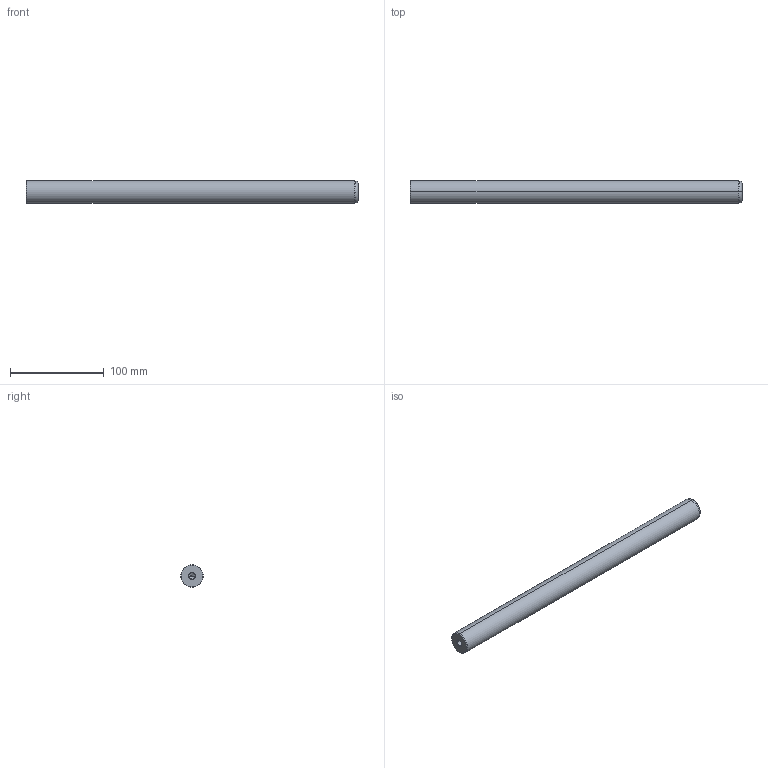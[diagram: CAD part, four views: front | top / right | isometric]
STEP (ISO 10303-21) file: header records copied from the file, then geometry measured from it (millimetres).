
FILE_DESCRIPTION(('CATIA V5 STEP Exchange'),'2;1');
FILE_NAME('C:\Users\Utente\Desktop\IO LAVORO\3D X SITO CF\X SITO\720\720-24x355.stp','2021-01-01T12:47:43+00:00',('none'),('none'),'CATIA Version 5 Release 20 GA (IN-10)','CATIA V5 STEP AP203','none');
FILE_SCHEMA(('CONFIG_CONTROL_DESIGN'));
Length unit declared in the file: millimetre
Products named in the file (1): 720-24x355
Bounding box: 355 x 24 x 24 mm (x, y, z)
Volume: 158632.4 mm3; surface area: 28506.4 mm2
Topology: 1 solids, 1 shells, 22 faces, 62 edges, 40 vertices
Faces by surface type: cone 12, cylinder 6, plane 2, torus 2
Entity records: 806 total; most frequent: CARTESIAN_POINT 229, ORIENTED_EDGE 116, DIRECTION 93, EDGE_CURVE 58, AXIS2_PLACEMENT_3D 54, VERTEX_POINT 40, CIRCLE 31, EDGE_LOOP 24
